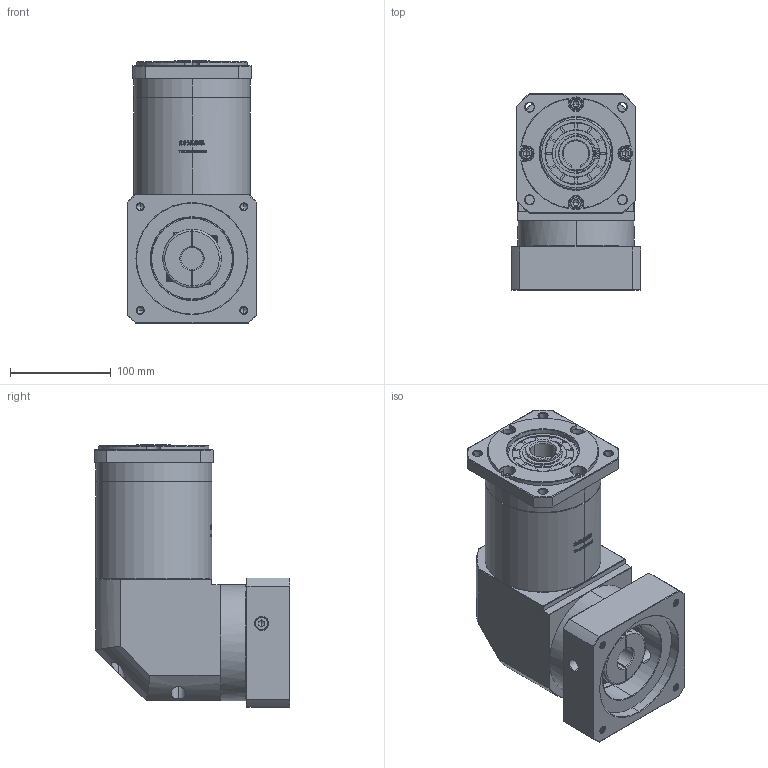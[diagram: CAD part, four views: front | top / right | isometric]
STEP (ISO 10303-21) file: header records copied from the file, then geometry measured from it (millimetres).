
FILE_DESCRIPTION (( 'STEP AP214' ), '1' );
FILE_NAME ('ZFR120A-K25-L3-22-110-145-M8.step', '2023-03-08T08:33:27', ( '' ), ( '' ), 'SwSTEP 2.0', 'SolidWorks 2016', '' );
FILE_SCHEMA (( 'AUTOMOTIVE_DESIGN' ));
Length unit declared in the file: millimetre
Products named in the file (1): ZFR120A-K25-L3-22-110-145-M8
Bounding box: 128 x 193.9 x 260 mm (x, y, z)
Volume: 3524930.7 mm3; surface area: 269946.1 mm2
Topology: 6 solids, 6 shells, 2815 faces, 7527 edges, 4857 vertices
Faces by surface type: plane 1477, bspline 598, cylinder 401, cone 331, torus 8
Entity records: 152483 total; most frequent: CARTESIAN_POINT 56868, ORIENTED_EDGE 14998, DIRECTION 10928, EDGE_CURVE 7499, VERTEX_POINT 4857, LINE 4696, VECTOR 4696, AXIS2_PLACEMENT_3D 3116
